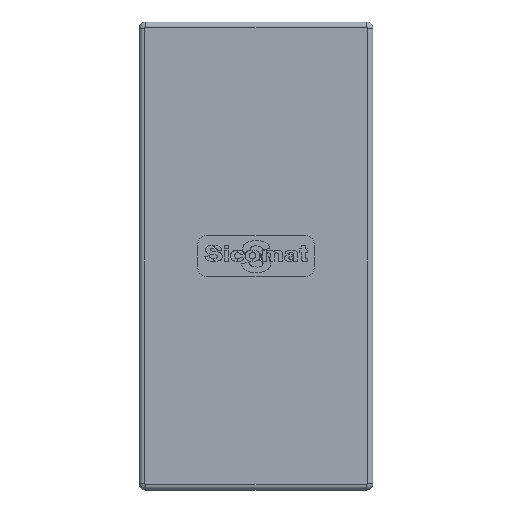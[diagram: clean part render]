
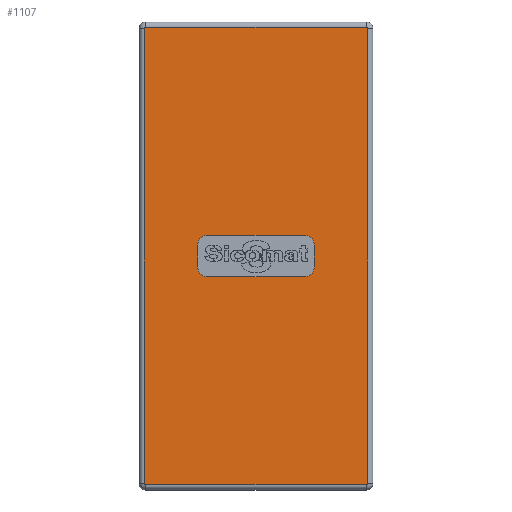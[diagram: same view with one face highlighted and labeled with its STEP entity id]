
A CAD part, top view. The second image highlights one B-rep face of the part: STEP entity #1107.
In plain terms, the highlighted planar face has unit normal (0, 0, 1).
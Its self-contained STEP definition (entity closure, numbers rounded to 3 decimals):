
#53 = EDGE_LOOP ( 'NONE', ( #3155, #3151, #2348, #3157, #2387, #2266, #2759, #3109 ) ) ;
#252 = FACE_BOUND ( 'NONE', #53, .T. ) ;
#254 = FACE_OUTER_BOUND ( 'NONE', #5031, .T. ) ;
#501 = VECTOR ( 'NONE', #4073, 1000. ) ;
#509 = LINE ( 'NONE', #4076, #501 ) ;
#662 = LINE ( 'NONE', #5834, #665 ) ;
#665 = VECTOR ( 'NONE', #6539, 1000. ) ;
#675 = CIRCLE ( 'NONE', #1571, 4. ) ;
#766 = CIRCLE ( 'NONE', #1559, 4. ) ;
#769 = LINE ( 'NONE', #6656, #774 ) ;
#774 = VECTOR ( 'NONE', #6653, 1000. ) ;
#776 = CIRCLE ( 'NONE', #1558, 0.5 ) ;
#787 = CIRCLE ( 'NONE', #1555, 4. ) ;
#797 = LINE ( 'NONE', #6424, #802 ) ;
#800 = CIRCLE ( 'NONE', #1548, 0.5 ) ;
#801 = CIRCLE ( 'NONE', #1550, 0.5 ) ;
#802 = VECTOR ( 'NONE', #6439, 1000. ) ;
#900 = LINE ( 'NONE', #5961, #908 ) ;
#908 = VECTOR ( 'NONE', #5958, 1000. ) ;
#934 = CIRCLE ( 'NONE', #1535, 4. ) ;
#949 = LINE ( 'NONE', #3245, #951 ) ;
#951 = VECTOR ( 'NONE', #3240, 1000. ) ;
#986 = LINE ( 'NONE', #3456, #989 ) ;
#988 = CIRCLE ( 'NONE', #1513, 0.5 ) ;
#989 = VECTOR ( 'NONE', #3455, 1000. ) ;
#998 = LINE ( 'NONE', #3397, #1007 ) ;
#1007 = VECTOR ( 'NONE', #3398, 1000. ) ;
#1107 = ADVANCED_FACE ( 'NONE', ( #252, #254 ), #5253, .T. ) ;
#1310 = EDGE_CURVE ( 'NONE', #5663, #4927, #509, .T. ) ;
#1480 = EDGE_CURVE ( 'NONE', #3515, #5104, #662, .T. ) ;
#1494 = EDGE_CURVE ( 'NONE', #3551, #4927, #675, .T. ) ;
#1513 = AXIS2_PLACEMENT_3D ( 'NONE', #3445, #3444, #3443 ) ;
#1535 = AXIS2_PLACEMENT_3D ( 'NONE', #3354, #3353, #3348 ) ;
#1548 = AXIS2_PLACEMENT_3D ( 'NONE', #6354, #6351, #6350 ) ;
#1550 = AXIS2_PLACEMENT_3D ( 'NONE', #6403, #6398, #6397 ) ;
#1555 = AXIS2_PLACEMENT_3D ( 'NONE', #6511, #6507, #6505 ) ;
#1558 = AXIS2_PLACEMENT_3D ( 'NONE', #6613, #6612, #6611 ) ;
#1559 = AXIS2_PLACEMENT_3D ( 'NONE', #6573, #6704, #6699 ) ;
#1571 = AXIS2_PLACEMENT_3D ( 'NONE', #6130, #6548, #6549 ) ;
#1695 = AXIS2_PLACEMENT_3D ( 'NONE', #5259, #5251, #5250 ) ;
#1765 = EDGE_CURVE ( 'NONE', #5663, #3577, #766, .T. ) ;
#1770 = EDGE_CURVE ( 'NONE', #3569, #5065, #769, .T. ) ;
#1773 = EDGE_CURVE ( 'NONE', #3491, #4997, #776, .T. ) ;
#1782 = EDGE_CURVE ( 'NONE', #3560, #5104, #787, .T. ) ;
#1792 = EDGE_CURVE ( 'NONE', #3544, #3516, #797, .T. ) ;
#1793 = EDGE_CURVE ( 'NONE', #5033, #3569, #801, .T. ) ;
#1800 = EDGE_CURVE ( 'NONE', #5065, #3544, #800, .T. ) ;
#1889 = EDGE_CURVE ( 'NONE', #3551, #3550, #900, .T. ) ;
#1913 = EDGE_CURVE ( 'NONE', #3515, #3550, #934, .T. ) ;
#1926 = EDGE_CURVE ( 'NONE', #4997, #5033, #949, .T. ) ;
#1961 = EDGE_CURVE ( 'NONE', #4969, #3491, #986, .T. ) ;
#1962 = EDGE_CURVE ( 'NONE', #3516, #4969, #988, .T. ) ;
#1977 = EDGE_CURVE ( 'NONE', #3560, #3577, #998, .T. ) ;
#2266 = ORIENTED_EDGE ( 'NONE', *, *, #1913, .T. ) ;
#2348 = ORIENTED_EDGE ( 'NONE', *, *, #1977, .F. ) ;
#2387 = ORIENTED_EDGE ( 'NONE', *, *, #1480, .F. ) ;
#2427 = ORIENTED_EDGE ( 'NONE', *, *, #1792, .T. ) ;
#2455 = ORIENTED_EDGE ( 'NONE', *, *, #1770, .T. ) ;
#2460 = ORIENTED_EDGE ( 'NONE', *, *, #1800, .T. ) ;
#2561 = ORIENTED_EDGE ( 'NONE', *, *, #1773, .T. ) ;
#2672 = ORIENTED_EDGE ( 'NONE', *, *, #1962, .T. ) ;
#2687 = ORIENTED_EDGE ( 'NONE', *, *, #1793, .T. ) ;
#2689 = ORIENTED_EDGE ( 'NONE', *, *, #1926, .T. ) ;
#2759 = ORIENTED_EDGE ( 'NONE', *, *, #1889, .F. ) ;
#2781 = ORIENTED_EDGE ( 'NONE', *, *, #1961, .T. ) ;
#2838 = CARTESIAN_POINT ( 'NONE',  ( 22.5, 4., 2.5 ) ) ;
#2894 = CARTESIAN_POINT ( 'NONE',  ( -42.5, 88., 2.5 ) ) ;
#2944 = CARTESIAN_POINT ( 'NONE',  ( 43., 87.5, 2.5 ) ) ;
#2952 = CARTESIAN_POINT ( 'NONE',  ( 43., -87.5, 2.5 ) ) ;
#3075 = CARTESIAN_POINT ( 'NONE',  ( -22.5, -4., 2.5 ) ) ;
#3109 = ORIENTED_EDGE ( 'NONE', *, *, #1494, .T. ) ;
#3134 = CARTESIAN_POINT ( 'NONE',  ( -42.5, -88., 2.5 ) ) ;
#3151 = ORIENTED_EDGE ( 'NONE', *, *, #1765, .T. ) ;
#3155 = ORIENTED_EDGE ( 'NONE', *, *, #1310, .F. ) ;
#3157 = ORIENTED_EDGE ( 'NONE', *, *, #1782, .T. ) ;
#3199 = CARTESIAN_POINT ( 'NONE',  ( -18.5, 8., 2.5 ) ) ;
#3209 = CARTESIAN_POINT ( 'NONE',  ( 42.5, 88., 2.5 ) ) ;
#3223 = CARTESIAN_POINT ( 'NONE',  ( 18.5, 8., 2.5 ) ) ;
#3234 = CARTESIAN_POINT ( 'NONE',  ( -18.5, -8., 2.5 ) ) ;
#3237 = CARTESIAN_POINT ( 'NONE',  ( 18.5, -8., 2.5 ) ) ;
#3240 = DIRECTION ( 'NONE',  ( 0., 1., 0. ) ) ;
#3244 = CARTESIAN_POINT ( 'NONE',  ( -43., 87.5, 2.5 ) ) ;
#3245 = CARTESIAN_POINT ( 'NONE',  ( 43., 87.5, 2.5 ) ) ;
#3280 = CARTESIAN_POINT ( 'NONE',  ( -43., -87.5, 2.5 ) ) ;
#3281 = CARTESIAN_POINT ( 'NONE',  ( 22.5, -4., 2.5 ) ) ;
#3312 = CARTESIAN_POINT ( 'NONE',  ( 42.5, -88., 2.5 ) ) ;
#3348 = DIRECTION ( 'NONE',  ( 1., 0., 0. ) ) ;
#3353 = DIRECTION ( 'NONE',  ( 0., 0., -1. ) ) ;
#3354 = CARTESIAN_POINT ( 'NONE',  ( 18.5, -4., 2.5 ) ) ;
#3397 = CARTESIAN_POINT ( 'NONE',  ( 22.5, 8., 2.5 ) ) ;
#3398 = DIRECTION ( 'NONE',  ( -1., 0., 0. ) ) ;
#3443 = DIRECTION ( 'NONE',  ( 1., 0., 0. ) ) ;
#3444 = DIRECTION ( 'NONE',  ( 0., 0., 1. ) ) ;
#3445 = CARTESIAN_POINT ( 'NONE',  ( -42.5, -87.5, 2.5 ) ) ;
#3455 = DIRECTION ( 'NONE',  ( 1., 0., 0. ) ) ;
#3456 = CARTESIAN_POINT ( 'NONE',  ( 42.5, -88., 2.5 ) ) ;
#3491 = VERTEX_POINT ( 'NONE', #3312 ) ;
#3515 = VERTEX_POINT ( 'NONE', #3281 ) ;
#3516 = VERTEX_POINT ( 'NONE', #3280 ) ;
#3544 = VERTEX_POINT ( 'NONE', #3244 ) ;
#3550 = VERTEX_POINT ( 'NONE', #3237 ) ;
#3551 = VERTEX_POINT ( 'NONE', #3234 ) ;
#3560 = VERTEX_POINT ( 'NONE', #3223 ) ;
#3569 = VERTEX_POINT ( 'NONE', #3209 ) ;
#3577 = VERTEX_POINT ( 'NONE', #3199 ) ;
#4073 = DIRECTION ( 'NONE',  ( 0., -1., 0. ) ) ;
#4076 = CARTESIAN_POINT ( 'NONE',  ( -22.5, -8., 2.5 ) ) ;
#4927 = VERTEX_POINT ( 'NONE', #3075 ) ;
#4969 = VERTEX_POINT ( 'NONE', #3134 ) ;
#4997 = VERTEX_POINT ( 'NONE', #2952 ) ;
#5031 = EDGE_LOOP ( 'NONE', ( #2427, #2672, #2781, #2561, #2689, #2687, #2455, #2460 ) ) ;
#5033 = VERTEX_POINT ( 'NONE', #2944 ) ;
#5065 = VERTEX_POINT ( 'NONE', #2894 ) ;
#5104 = VERTEX_POINT ( 'NONE', #2838 ) ;
#5250 = DIRECTION ( 'NONE',  ( 1., 0., 0. ) ) ;
#5251 = DIRECTION ( 'NONE',  ( 0., 0., 1. ) ) ;
#5253 = PLANE ( 'NONE',  #1695 ) ;
#5259 = CARTESIAN_POINT ( 'NONE',  ( 0., 0., 2.5 ) ) ;
#5663 = VERTEX_POINT ( 'NONE', #5791 ) ;
#5791 = CARTESIAN_POINT ( 'NONE',  ( -22.5, 4., 2.5 ) ) ;
#5834 = CARTESIAN_POINT ( 'NONE',  ( 22.5, -8., 2.5 ) ) ;
#5958 = DIRECTION ( 'NONE',  ( 1., 0., 0. ) ) ;
#5961 = CARTESIAN_POINT ( 'NONE',  ( 22.5, -8., 2.5 ) ) ;
#6130 = CARTESIAN_POINT ( 'NONE',  ( -18.5, -4., 2.5 ) ) ;
#6350 = DIRECTION ( 'NONE',  ( 1., 0., 0. ) ) ;
#6351 = DIRECTION ( 'NONE',  ( 0., 0., 1. ) ) ;
#6354 = CARTESIAN_POINT ( 'NONE',  ( -42.5, 87.5, 2.5 ) ) ;
#6397 = DIRECTION ( 'NONE',  ( 1., 0., 0. ) ) ;
#6398 = DIRECTION ( 'NONE',  ( 0., 0., 1. ) ) ;
#6403 = CARTESIAN_POINT ( 'NONE',  ( 42.5, 87.5, 2.5 ) ) ;
#6424 = CARTESIAN_POINT ( 'NONE',  ( -43., -87.5, 2.5 ) ) ;
#6439 = DIRECTION ( 'NONE',  ( 0., -1., 0. ) ) ;
#6505 = DIRECTION ( 'NONE',  ( 1., 0., 0. ) ) ;
#6507 = DIRECTION ( 'NONE',  ( 0., 0., -1. ) ) ;
#6511 = CARTESIAN_POINT ( 'NONE',  ( 18.5, 4., 2.5 ) ) ;
#6539 = DIRECTION ( 'NONE',  ( 0., 1., 0. ) ) ;
#6548 = DIRECTION ( 'NONE',  ( 0., 0., -1. ) ) ;
#6549 = DIRECTION ( 'NONE',  ( 1., 0., 0. ) ) ;
#6573 = CARTESIAN_POINT ( 'NONE',  ( -18.5, 4., 2.5 ) ) ;
#6611 = DIRECTION ( 'NONE',  ( 1., 0., 0. ) ) ;
#6612 = DIRECTION ( 'NONE',  ( 0., 0., 1. ) ) ;
#6613 = CARTESIAN_POINT ( 'NONE',  ( 42.5, -87.5, 2.5 ) ) ;
#6653 = DIRECTION ( 'NONE',  ( -1., 0., 0. ) ) ;
#6656 = CARTESIAN_POINT ( 'NONE',  ( -42.5, 88., 2.5 ) ) ;
#6699 = DIRECTION ( 'NONE',  ( 1., 0., 0. ) ) ;
#6704 = DIRECTION ( 'NONE',  ( 0., 0., -1. ) ) ;
